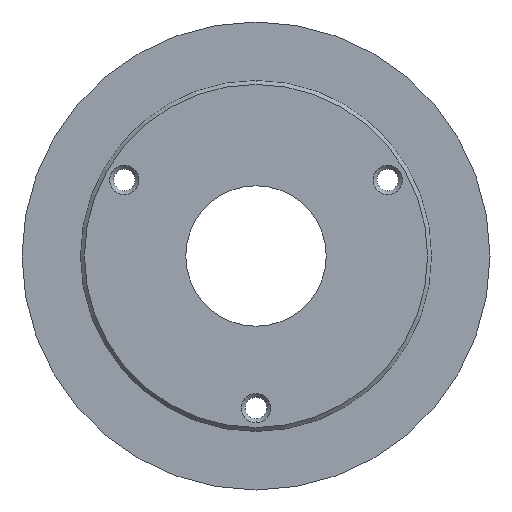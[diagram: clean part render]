
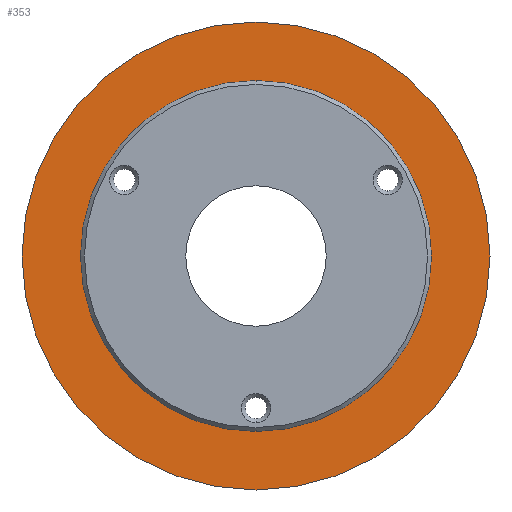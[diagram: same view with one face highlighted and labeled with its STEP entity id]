
A CAD part, front view. The second image highlights one B-rep face of the part: STEP entity #353.
In plain terms, the highlighted planar face has unit normal (0, -1, 0).
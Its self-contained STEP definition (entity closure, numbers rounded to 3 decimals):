
#72 = EDGE_CURVE ( 'NONE', #243, #425, #409, .T. ) ;
#90 = ORIENTED_EDGE ( 'NONE', *, *, #926, .F. ) ;
#125 = AXIS2_PLACEMENT_3D ( 'NONE', #790, #881, #189 ) ;
#134 = DIRECTION ( 'NONE',  ( 0., -1., 0. ) ) ;
#156 = CARTESIAN_POINT ( 'NONE',  ( 0., 4., 0. ) ) ;
#166 = DIRECTION ( 'NONE',  ( 0., 0., -1. ) ) ;
#189 = DIRECTION ( 'NONE',  ( 0., 0., 1. ) ) ;
#190 = EDGE_CURVE ( 'NONE', #425, #243, #742, .T. ) ;
#226 = AXIS2_PLACEMENT_3D ( 'NONE', #156, #1083, #166 ) ;
#243 = VERTEX_POINT ( 'NONE', #535 ) ;
#294 = DIRECTION ( 'NONE',  ( 0., 0., -1. ) ) ;
#308 = AXIS2_PLACEMENT_3D ( 'NONE', #793, #134, #522 ) ;
#312 = CARTESIAN_POINT ( 'NONE',  ( 0., 4., 45. ) ) ;
#328 = CARTESIAN_POINT ( 'NONE',  ( 0., 4., -60. ) ) ;
#353 = ADVANCED_FACE ( 'NONE', ( #1166, #904 ), #1204, .F. ) ;
#409 = CIRCLE ( 'NONE', #919, 60. ) ;
#425 = VERTEX_POINT ( 'NONE', #328 ) ;
#439 = EDGE_LOOP ( 'NONE', ( #863, #1042 ) ) ;
#522 = DIRECTION ( 'NONE',  ( 0., 0., -1. ) ) ;
#535 = CARTESIAN_POINT ( 'NONE',  ( 0., 4., 60. ) ) ;
#544 = ORIENTED_EDGE ( 'NONE', *, *, #1046, .F. ) ;
#713 = CARTESIAN_POINT ( 'NONE',  ( 0., 4., -45. ) ) ;
#719 = VERTEX_POINT ( 'NONE', #312 ) ;
#742 = CIRCLE ( 'NONE', #760, 60. ) ;
#760 = AXIS2_PLACEMENT_3D ( 'NONE', #766, #1061, #294 ) ;
#766 = CARTESIAN_POINT ( 'NONE',  ( 0., 4., 0. ) ) ;
#790 = CARTESIAN_POINT ( 'NONE',  ( -45., 4., 0. ) ) ;
#793 = CARTESIAN_POINT ( 'NONE',  ( 0., 4., 0. ) ) ;
#863 = ORIENTED_EDGE ( 'NONE', *, *, #190, .T. ) ;
#881 = DIRECTION ( 'NONE',  ( 0., 1., 0. ) ) ;
#886 = VERTEX_POINT ( 'NONE', #713 ) ;
#891 = EDGE_LOOP ( 'NONE', ( #544, #90 ) ) ;
#904 = FACE_OUTER_BOUND ( 'NONE', #439, .T. ) ;
#919 = AXIS2_PLACEMENT_3D ( 'NONE', #1110, #1118, #1137 ) ;
#926 = EDGE_CURVE ( 'NONE', #719, #886, #1070, .T. ) ;
#969 = CIRCLE ( 'NONE', #226, 45. ) ;
#1042 = ORIENTED_EDGE ( 'NONE', *, *, #72, .T. ) ;
#1046 = EDGE_CURVE ( 'NONE', #886, #719, #969, .T. ) ;
#1061 = DIRECTION ( 'NONE',  ( 0., -1., 0. ) ) ;
#1070 = CIRCLE ( 'NONE', #308, 45. ) ;
#1083 = DIRECTION ( 'NONE',  ( 0., -1., 0. ) ) ;
#1110 = CARTESIAN_POINT ( 'NONE',  ( 0., 4., 0. ) ) ;
#1118 = DIRECTION ( 'NONE',  ( 0., -1., 0. ) ) ;
#1137 = DIRECTION ( 'NONE',  ( 0., 0., -1. ) ) ;
#1166 = FACE_BOUND ( 'NONE', #891, .T. ) ;
#1204 = PLANE ( 'NONE',  #125 ) ;
